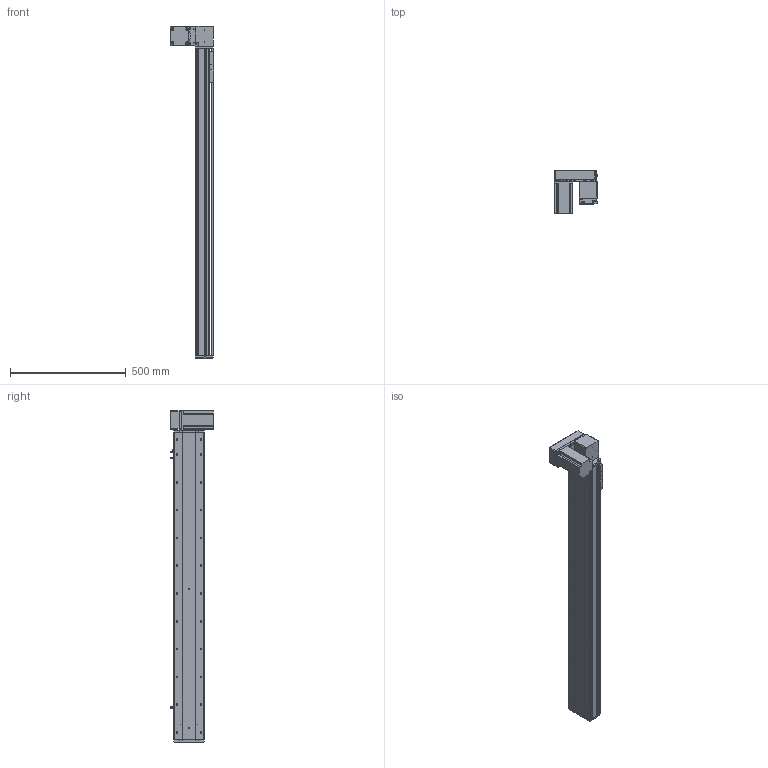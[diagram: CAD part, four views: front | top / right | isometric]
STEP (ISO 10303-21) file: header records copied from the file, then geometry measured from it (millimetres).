
FILE_DESCRIPTION (( 'STEP AP214' ), '1' );
FILE_NAME ('KSD130B-S1100-MRD-CM.STEP', '2019-09-23T01:43:08', ( '微软用户' ), ( '微软中国' ), 'SwSTEP 2.0', 'SolidWorks 2014', '' );
FILE_SCHEMA (( 'AUTOMOTIVE_DESIGN' ));
Length unit declared in the file: millimetre
Products named in the file (12): 130宽模组保护罩上下左右折-同步带; 台达ECMA－C20807AS伺服电机; 130宽模组马达安装板连板上下折丝杆同步带; 覜茼え100遵圉猾敕; U倰嫖萇EEㄜSX672; 130宽盖板半封闭同步带-1100行程; 130宽马达安装板同步带右-改镜向_默认<按加工>; 130宽马达安装板同步带半封闭; 130宽同步带安装座半封闭; 130宽端盖同步带半封闭; 130宽底板半封闭同步带-1100行程; KSD130B-S1100-MRD-CM
Assembly tree (13 placements, depth 2):
  KSD130B-S1100-MRD-CM
    130宽底板半封闭同步带-1100行程
    130宽端盖同步带半封闭
    130宽同步带安装座半封闭
    130宽马达安装板同步带半封闭
    130宽马达安装板同步带右-改镜向_默认<按加工>
    130宽盖板半封闭同步带-1100行程
    U倰嫖萇EEㄜSX672  x3
    覜茼え100遵圉猾敕
    130宽模组马达安装板连板上下折丝杆同步带
    台达ECMA－C20807AS伺服电机
    130宽模组保护罩上下左右折-同步带
Bounding box: 186 x 184.8 x 1433 mm (x, y, z)
Volume: 5234803.4 mm3; surface area: 1439519.8 mm2
Topology: 14 solids, 14 shells, 1569 faces, 4505 edges, 2871 vertices
Faces by surface type: cylinder 756, plane 630, cone 183
Entity records: 52075 total; most frequent: CARTESIAN_POINT 9768, DIRECTION 7911, ORIENTED_EDGE 7630, EDGE_CURVE 3815, AXIS2_PLACEMENT_3D 2894, VERTEX_POINT 2495, LINE 2123, VECTOR 2123
